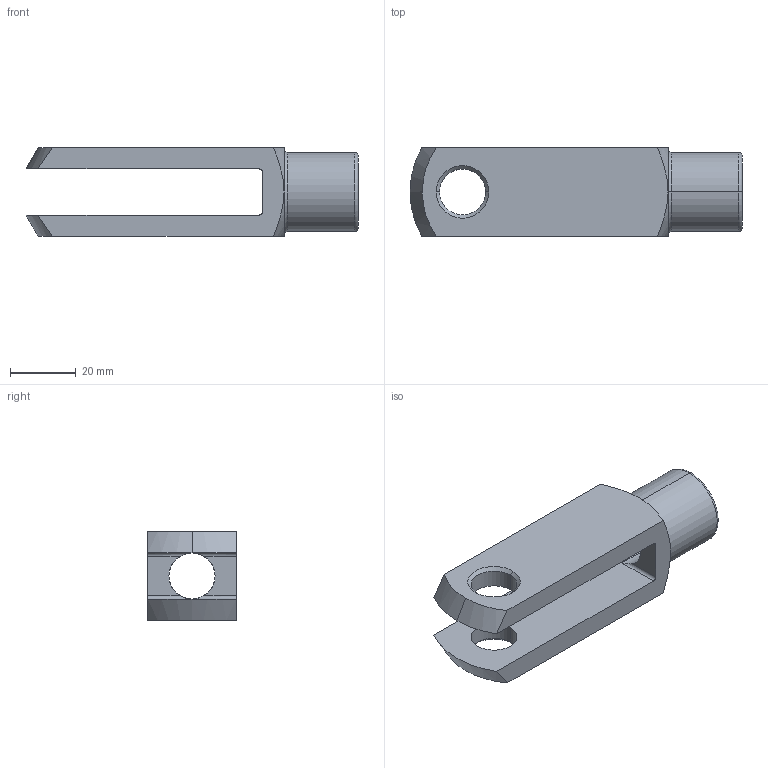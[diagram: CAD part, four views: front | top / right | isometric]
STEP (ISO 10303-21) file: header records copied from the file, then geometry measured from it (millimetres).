
FILE_DESCRIPTION (( 'STEP AP203' ), '1' );
FILE_NAME ('65636.W0146.step', '2014-01-17T13:14:06', ( 'User' ), ( '' ), 'SwSTEP 2.0', 'SolidWorks 2009', '' );
FILE_SCHEMA (( 'CONFIG_CONTROL_DESIGN' ));
Length unit declared in the file: millimetre
Products named in the file (1): 65636.W0146
Bounding box: 101 x 27 x 27 mm (x, y, z)
Volume: 32417.8 mm3; surface area: 13761.9 mm2
Topology: 1 solids, 1 shells, 39 faces, 93 edges, 56 vertices
Faces by surface type: cone 13, cylinder 12, plane 10, torus 4
Entity records: 1316 total; most frequent: CARTESIAN_POINT 321, DIRECTION 201, ORIENTED_EDGE 186, EDGE_CURVE 93, AXIS2_PLACEMENT_3D 84, VERTEX_POINT 56, EDGE_LOOP 45, CIRCLE 44
